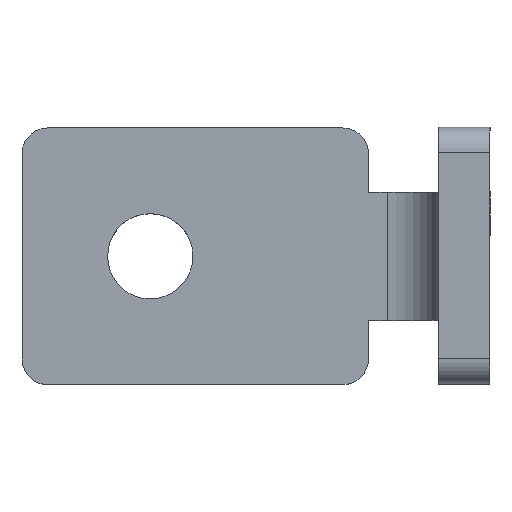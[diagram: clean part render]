
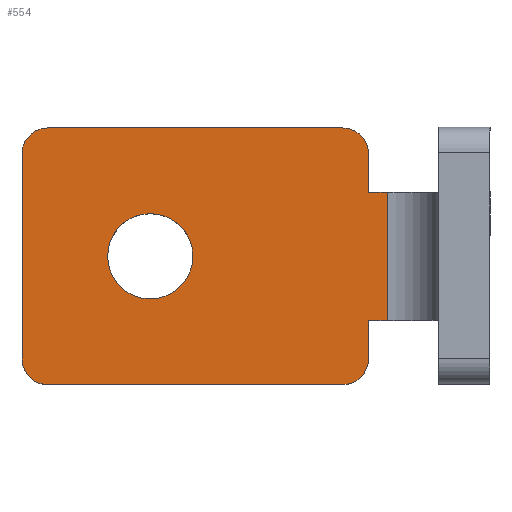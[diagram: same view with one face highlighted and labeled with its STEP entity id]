
A CAD part, top view. The second image highlights one B-rep face of the part: STEP entity #554.
In plain terms, the highlighted planar face has unit normal (0, 0, 1).
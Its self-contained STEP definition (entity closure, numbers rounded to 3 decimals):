
#13=FACE_BOUND($,#69,.T.);
#37=FACE_OUTER_BOUND($,#68,.T.);
#68=EDGE_LOOP($,(#389,#390,#391,#392,#393,#394,#395,#396,#397,#398,#399,
#400));
#69=EDGE_LOOP($,(#401));
#107=LINE($,#833,#163);
#111=LINE($,#840,#167);
#112=LINE($,#843,#168);
#113=LINE($,#847,#169);
#114=LINE($,#851,#170);
#115=LINE($,#855,#171);
#116=LINE($,#859,#172);
#117=LINE($,#860,#173);
#163=VECTOR($,#664,10.);
#167=VECTOR($,#670,1.476);
#168=VECTOR($,#673,3.);
#169=VECTOR($,#676,23.);
#170=VECTOR($,#679,16.);
#171=VECTOR($,#682,23.);
#172=VECTOR($,#685,3.);
#173=VECTOR($,#686,1.476);
#217=CIRCLE($,#594,2.);
#218=CIRCLE($,#595,2.);
#219=CIRCLE($,#596,2.);
#220=CIRCLE($,#597,2.);
#221=CIRCLE($,#598,3.324);
#240=VERTEX_POINT($,#817);
#243=VERTEX_POINT($,#824);
#246=VERTEX_POINT($,#838);
#247=VERTEX_POINT($,#842);
#248=VERTEX_POINT($,#844);
#249=VERTEX_POINT($,#846);
#250=VERTEX_POINT($,#848);
#251=VERTEX_POINT($,#850);
#252=VERTEX_POINT($,#852);
#253=VERTEX_POINT($,#854);
#254=VERTEX_POINT($,#856);
#255=VERTEX_POINT($,#858);
#256=VERTEX_POINT($,#861);
#299=EDGE_CURVE($,#240,#243,#107,.T.);
#303=EDGE_CURVE($,#246,#243,#111,.T.);
#304=EDGE_CURVE($,#247,#246,#112,.T.);
#305=EDGE_CURVE($,#248,#247,#217,.T.);
#306=EDGE_CURVE($,#249,#248,#113,.T.);
#307=EDGE_CURVE($,#250,#249,#218,.T.);
#308=EDGE_CURVE($,#251,#250,#114,.T.);
#309=EDGE_CURVE($,#252,#251,#219,.T.);
#310=EDGE_CURVE($,#253,#252,#115,.T.);
#311=EDGE_CURVE($,#254,#253,#220,.T.);
#312=EDGE_CURVE($,#255,#254,#116,.T.);
#313=EDGE_CURVE($,#240,#255,#117,.T.);
#314=EDGE_CURVE($,#256,#256,#221,.T.);
#389=ORIENTED_EDGE($,*,*,#299,.T.);
#390=ORIENTED_EDGE($,*,*,#303,.F.);
#391=ORIENTED_EDGE($,*,*,#304,.F.);
#392=ORIENTED_EDGE($,*,*,#305,.F.);
#393=ORIENTED_EDGE($,*,*,#306,.F.);
#394=ORIENTED_EDGE($,*,*,#307,.F.);
#395=ORIENTED_EDGE($,*,*,#308,.F.);
#396=ORIENTED_EDGE($,*,*,#309,.F.);
#397=ORIENTED_EDGE($,*,*,#310,.F.);
#398=ORIENTED_EDGE($,*,*,#311,.F.);
#399=ORIENTED_EDGE($,*,*,#312,.F.);
#400=ORIENTED_EDGE($,*,*,#313,.F.);
#401=ORIENTED_EDGE($,*,*,#314,.T.);
#532=PLANE($,#593);
#554=ADVANCED_FACE($,(#37,#13),#532,.T.);
#593=AXIS2_PLACEMENT_3D($,#841,#671,#672);
#594=AXIS2_PLACEMENT_3D($,#845,#674,#675);
#595=AXIS2_PLACEMENT_3D($,#849,#677,#678);
#596=AXIS2_PLACEMENT_3D($,#853,#680,#681);
#597=AXIS2_PLACEMENT_3D($,#857,#683,#684);
#598=AXIS2_PLACEMENT_3D($,#862,#687,#688);
#664=DIRECTION($,(0.,1.,0.));
#670=DIRECTION($,(1.,0.,0.));
#671=DIRECTION('center_axis',(0.,0.,1.));
#672=DIRECTION('ref_axis',(1.,0.,0.));
#673=DIRECTION($,(0.,-1.,0.));
#674=DIRECTION('center_axis',(0.,0.,-1.));
#675=DIRECTION('ref_axis',(1.,0.,0.));
#676=DIRECTION($,(1.,0.,0.));
#677=DIRECTION('center_axis',(0.,0.,-1.));
#678=DIRECTION('ref_axis',(0.,1.,0.));
#679=DIRECTION($,(0.,1.,0.));
#680=DIRECTION('center_axis',(0.,0.,-1.));
#681=DIRECTION('ref_axis',(-1.,0.,0.));
#682=DIRECTION($,(-1.,0.,0.));
#683=DIRECTION('center_axis',(0.,0.,-1.));
#684=DIRECTION('ref_axis',(0.,-1.,0.));
#685=DIRECTION($,(0.,-1.,0.));
#686=DIRECTION($,(-1.,0.,0.));
#687=DIRECTION('center_axis',(0.,0.,-1.));
#688=DIRECTION('ref_axis',(1.,0.,0.));
#817=CARTESIAN_POINT('',(28.476,5.,4.));
#824=CARTESIAN_POINT('',(28.476,15.,4.));
#833=CARTESIAN_POINT($,(28.476,12.5,4.));
#838=CARTESIAN_POINT('',(27.,15.,4.));
#840=CARTESIAN_POINT($,(39.,15.,4.));
#841=CARTESIAN_POINT('Origin',(33.,10.,4.));
#842=CARTESIAN_POINT('',(27.,18.,4.));
#843=CARTESIAN_POINT($,(27.,15.,4.));
#844=CARTESIAN_POINT('',(25.,20.,4.));
#845=CARTESIAN_POINT('Origin',(25.,18.,4.));
#846=CARTESIAN_POINT('',(2.,20.,4.));
#847=CARTESIAN_POINT($,(25.,20.,4.));
#848=CARTESIAN_POINT('',(0.,18.,4.));
#849=CARTESIAN_POINT('Origin',(2.,18.,4.));
#850=CARTESIAN_POINT('',(0.,2.,4.));
#851=CARTESIAN_POINT($,(0.,18.,4.));
#852=CARTESIAN_POINT('',(2.,0.,4.));
#853=CARTESIAN_POINT('Origin',(2.,2.,4.));
#854=CARTESIAN_POINT('',(25.,0.,4.));
#855=CARTESIAN_POINT($,(2.,0.,4.));
#856=CARTESIAN_POINT('',(27.,2.,4.));
#857=CARTESIAN_POINT('Origin',(25.,2.,4.));
#858=CARTESIAN_POINT('',(27.,5.,4.));
#859=CARTESIAN_POINT($,(27.,2.,4.));
#860=CARTESIAN_POINT($,(27.,5.,4.));
#861=CARTESIAN_POINT('',(13.324,10.,4.));
#862=CARTESIAN_POINT('Origin',(10.,10.,4.));
